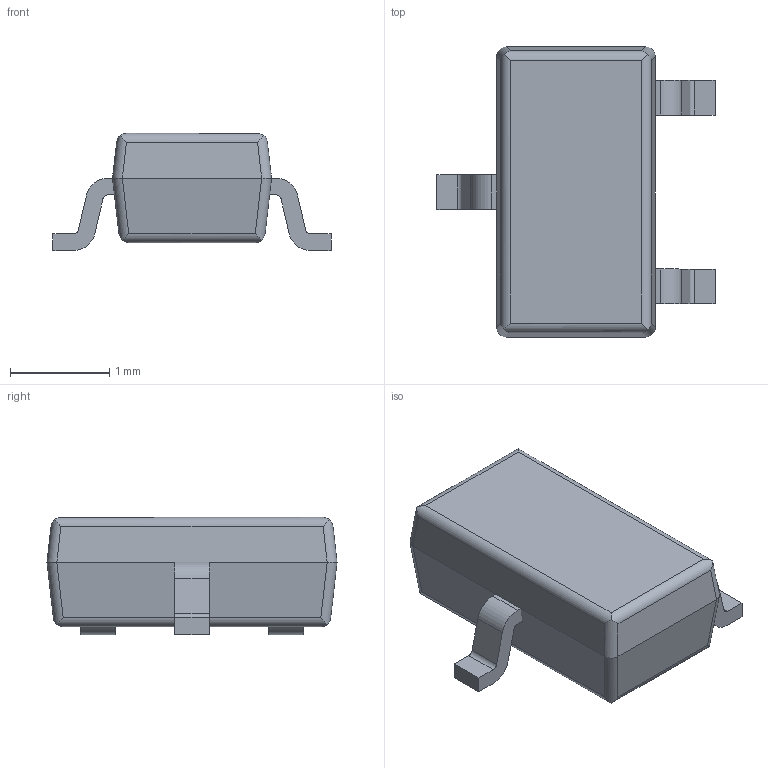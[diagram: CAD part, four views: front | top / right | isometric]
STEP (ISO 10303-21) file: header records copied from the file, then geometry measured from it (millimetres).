
FILE_DESCRIPTION (( 'STEP AP203' ), '1' );
FILE_NAME ('3D SC-59.STEP', '2023-07-10T05:58:38', ( '' ), ( '' ), 'SwSTEP 2.0', 'SolidWorks 2022', '' );
FILE_SCHEMA (( 'CONFIG_CONTROL_DESIGN' ));
Length unit declared in the file: millimetre
Products named in the file (1): 3D SC-59
Bounding box: 2.8 x 2.92 x 1.18 mm (x, y, z)
Volume: 5 mm3; surface area: 21.6 mm2
Topology: 4 solids, 4 shells, 68 faces, 172 edges, 112 vertices
Faces by surface type: plane 40, cylinder 28
Entity records: 2087 total; most frequent: CARTESIAN_POINT 437, ORIENTED_EDGE 344, DIRECTION 306, EDGE_CURVE 172, LINE 120, VECTOR 120, VERTEX_POINT 112, AXIS2_PLACEMENT_3D 93
